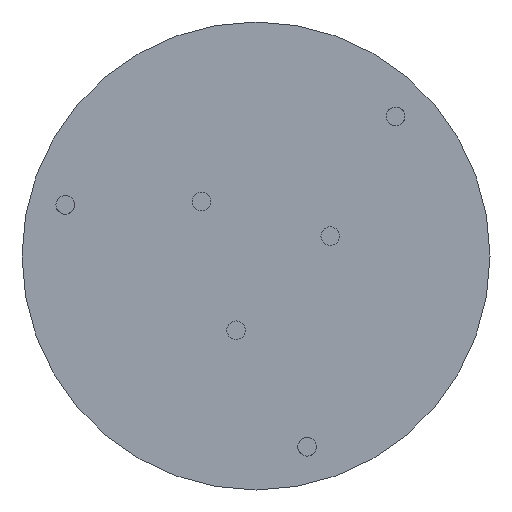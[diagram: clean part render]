
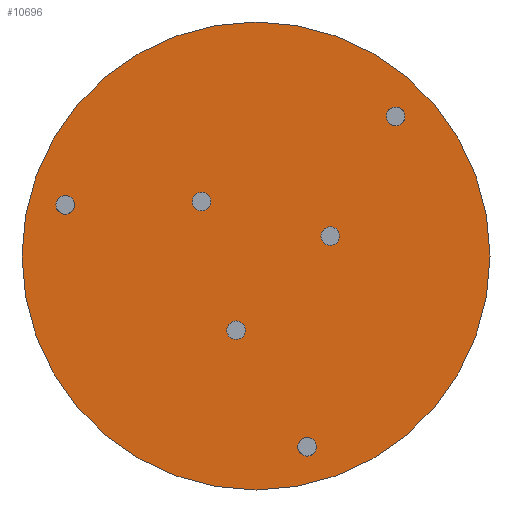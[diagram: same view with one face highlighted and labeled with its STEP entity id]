
A CAD part, front view. The second image highlights one B-rep face of the part: STEP entity #10696.
In plain terms, the highlighted planar face has unit normal (0, -1, 0).
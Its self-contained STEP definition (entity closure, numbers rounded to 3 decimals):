
#14 = EDGE_CURVE ( 'NONE', #13935, #9723, #3728, .T. ) ;
#124 = CIRCLE ( 'NONE', #11378, 1.025 ) ;
#409 = VERTEX_POINT ( 'NONE', #5105 ) ;
#534 = AXIS2_PLACEMENT_3D ( 'NONE', #18469, #21255, #14692 ) ;
#538 = CARTESIAN_POINT ( 'NONE',  ( -2.2, -16.167, -7.185 ) ) ;
#561 = CARTESIAN_POINT ( 'NONE',  ( -2.2, -16.167, -8.21 ) ) ;
#601 = DIRECTION ( 'NONE',  ( 0., 1., 0. ) ) ;
#626 = AXIS2_PLACEMENT_3D ( 'NONE', #5455, #15149, #8956 ) ;
#720 = ORIENTED_EDGE ( 'NONE', *, *, #12627, .T. ) ;
#805 = CARTESIAN_POINT ( 'NONE',  ( 15.44, -16.167, 15.44 ) ) ;
#852 = FACE_BOUND ( 'NONE', #11105, .T. ) ;
#1054 = EDGE_CURVE ( 'NONE', #10096, #409, #5345, .T. ) ;
#1251 = AXIS2_PLACEMENT_3D ( 'NONE', #21006, #11650, #20651 ) ;
#1368 = CIRCLE ( 'NONE', #21277, 25.87 ) ;
#1463 = CIRCLE ( 'NONE', #8812, 1.025 ) ;
#1487 = DIRECTION ( 'NONE',  ( 0., 0., 1. ) ) ;
#1886 = CIRCLE ( 'NONE', #15677, 25.87 ) ;
#1982 = CARTESIAN_POINT ( 'NONE',  ( 15.44, -16.167, 14.415 ) ) ;
#2028 = EDGE_CURVE ( 'NONE', #19345, #5427, #7998, .T. ) ;
#2061 = VERTEX_POINT ( 'NONE', #16695 ) ;
#2210 = AXIS2_PLACEMENT_3D ( 'NONE', #19307, #601, #15830 ) ;
#2347 = VERTEX_POINT ( 'NONE', #11616 ) ;
#2651 = DIRECTION ( 'NONE',  ( 0., 0., 1. ) ) ;
#2839 = DIRECTION ( 'NONE',  ( 0., 0., -1. ) ) ;
#2897 = DIRECTION ( 'NONE',  ( 0., 0., -1. ) ) ;
#2940 = PLANE ( 'NONE',  #15455 ) ;
#3058 = EDGE_CURVE ( 'NONE', #11315, #2347, #14504, .T. ) ;
#3181 = CARTESIAN_POINT ( 'NONE',  ( 8.21, -16.167, 1.175 ) ) ;
#3257 = EDGE_CURVE ( 'NONE', #2061, #5592, #21453, .T. ) ;
#3351 = DIRECTION ( 'NONE',  ( 0., 0., 1. ) ) ;
#3517 = CIRCLE ( 'NONE', #12570, 1.025 ) ;
#3615 = FACE_BOUND ( 'NONE', #7891, .T. ) ;
#3728 = CIRCLE ( 'NONE', #17282, 1.025 ) ;
#3746 = EDGE_CURVE ( 'NONE', #9723, #13935, #15369, .T. ) ;
#3860 = ORIENTED_EDGE ( 'NONE', *, *, #3746, .T. ) ;
#3978 = FACE_OUTER_BOUND ( 'NONE', #4172, .T. ) ;
#4087 = AXIS2_PLACEMENT_3D ( 'NONE', #17050, #13234, #4545 ) ;
#4172 = EDGE_LOOP ( 'NONE', ( #14338, #10145 ) ) ;
#4391 = CIRCLE ( 'NONE', #534, 1.025 ) ;
#4545 = DIRECTION ( 'NONE',  ( 0., 0., 1. ) ) ;
#4631 = DIRECTION ( 'NONE',  ( 0., -1., 0. ) ) ;
#5105 = CARTESIAN_POINT ( 'NONE',  ( -6.01, -16.167, 7.035 ) ) ;
#5188 = CARTESIAN_POINT ( 'NONE',  ( 15.44, -16.167, 16.465 ) ) ;
#5236 = ORIENTED_EDGE ( 'NONE', *, *, #14, .T. ) ;
#5345 = CIRCLE ( 'NONE', #16879, 1.025 ) ;
#5427 = VERTEX_POINT ( 'NONE', #3181 ) ;
#5443 = EDGE_CURVE ( 'NONE', #16211, #16383, #1886, .T. ) ;
#5455 = CARTESIAN_POINT ( 'NONE',  ( 15.44, -16.167, 15.44 ) ) ;
#5592 = VERTEX_POINT ( 'NONE', #538 ) ;
#5801 = DIRECTION ( 'NONE',  ( 0., 1., 0. ) ) ;
#6082 = CIRCLE ( 'NONE', #2210, 1.025 ) ;
#6347 = ORIENTED_EDGE ( 'NONE', *, *, #2028, .T. ) ;
#6796 = FACE_BOUND ( 'NONE', #13981, .T. ) ;
#7375 = ORIENTED_EDGE ( 'NONE', *, *, #1054, .T. ) ;
#7396 = EDGE_CURVE ( 'NONE', #5427, #19345, #16577, .T. ) ;
#7554 = CARTESIAN_POINT ( 'NONE',  ( -6.01, -16.167, 6.01 ) ) ;
#7595 = DIRECTION ( 'NONE',  ( 0., 1., 0. ) ) ;
#7891 = EDGE_LOOP ( 'NONE', ( #6347, #16689 ) ) ;
#7998 = CIRCLE ( 'NONE', #4087, 1.025 ) ;
#8475 = DIRECTION ( 'NONE',  ( 0., 1., 0. ) ) ;
#8483 = ORIENTED_EDGE ( 'NONE', *, *, #15787, .T. ) ;
#8557 = DIRECTION ( 'NONE',  ( 0., 0., 1. ) ) ;
#8755 = CARTESIAN_POINT ( 'NONE',  ( -21.091, -16.167, 6.676 ) ) ;
#8812 = AXIS2_PLACEMENT_3D ( 'NONE', #16501, #17885, #8557 ) ;
#8927 = AXIS2_PLACEMENT_3D ( 'NONE', #19433, #12182, #11828 ) ;
#8956 = DIRECTION ( 'NONE',  ( 0., 0., 1. ) ) ;
#9723 = VERTEX_POINT ( 'NONE', #1982 ) ;
#9982 = CARTESIAN_POINT ( 'NONE',  ( 5.651, -16.167, -22.116 ) ) ;
#10096 = VERTEX_POINT ( 'NONE', #20904 ) ;
#10145 = ORIENTED_EDGE ( 'NONE', *, *, #12412, .T. ) ;
#10239 = DIRECTION ( 'NONE',  ( 0., 0., -1. ) ) ;
#10696 = ADVANCED_FACE ( 'NONE', ( #852, #11947, #20633, #3615, #6796, #18191, #3978 ), #2940, .T. ) ;
#11018 = DIRECTION ( 'NONE',  ( 0., 0., 1. ) ) ;
#11105 = EDGE_LOOP ( 'NONE', ( #12839, #720 ) ) ;
#11218 = EDGE_LOOP ( 'NONE', ( #16371, #7375 ) ) ;
#11315 = VERTEX_POINT ( 'NONE', #9982 ) ;
#11378 = AXIS2_PLACEMENT_3D ( 'NONE', #16569, #7595, #19653 ) ;
#11616 = CARTESIAN_POINT ( 'NONE',  ( 5.651, -16.167, -20.066 ) ) ;
#11650 = DIRECTION ( 'NONE',  ( 0., 1., 0. ) ) ;
#11828 = DIRECTION ( 'NONE',  ( 0., 0., 1. ) ) ;
#11947 = FACE_BOUND ( 'NONE', #11218, .T. ) ;
#12182 = DIRECTION ( 'NONE',  ( 0., 1., 0. ) ) ;
#12201 = DIRECTION ( 'NONE',  ( 0., -1., 0. ) ) ;
#12412 = EDGE_CURVE ( 'NONE', #16383, #16211, #1368, .T. ) ;
#12570 = AXIS2_PLACEMENT_3D ( 'NONE', #14117, #5801, #3351 ) ;
#12627 = EDGE_CURVE ( 'NONE', #21443, #16069, #3517, .T. ) ;
#12839 = ORIENTED_EDGE ( 'NONE', *, *, #15137, .T. ) ;
#12981 = EDGE_CURVE ( 'NONE', #5592, #2061, #124, .T. ) ;
#13234 = DIRECTION ( 'NONE',  ( 0., 1., 0. ) ) ;
#13664 = CARTESIAN_POINT ( 'NONE',  ( 0., -16.167, 0. ) ) ;
#13935 = VERTEX_POINT ( 'NONE', #5188 ) ;
#13981 = EDGE_LOOP ( 'NONE', ( #8483, #18088 ) ) ;
#14105 = CARTESIAN_POINT ( 'NONE',  ( 8.21, -16.167, 3.225 ) ) ;
#14117 = CARTESIAN_POINT ( 'NONE',  ( -21.091, -16.167, 5.651 ) ) ;
#14312 = CARTESIAN_POINT ( 'NONE',  ( -21.091, -16.167, 4.626 ) ) ;
#14319 = ORIENTED_EDGE ( 'NONE', *, *, #3257, .T. ) ;
#14338 = ORIENTED_EDGE ( 'NONE', *, *, #5443, .T. ) ;
#14504 = CIRCLE ( 'NONE', #1251, 1.025 ) ;
#14692 = DIRECTION ( 'NONE',  ( 0., 0., 1. ) ) ;
#15137 = EDGE_CURVE ( 'NONE', #16069, #21443, #6082, .T. ) ;
#15149 = DIRECTION ( 'NONE',  ( 0., 1., 0. ) ) ;
#15365 = ORIENTED_EDGE ( 'NONE', *, *, #12981, .T. ) ;
#15369 = CIRCLE ( 'NONE', #626, 1.025 ) ;
#15455 = AXIS2_PLACEMENT_3D ( 'NONE', #18521, #16142, #10239 ) ;
#15677 = AXIS2_PLACEMENT_3D ( 'NONE', #20180, #12201, #2839 ) ;
#15787 = EDGE_CURVE ( 'NONE', #2347, #11315, #1463, .T. ) ;
#15830 = DIRECTION ( 'NONE',  ( 0., 0., 1. ) ) ;
#16069 = VERTEX_POINT ( 'NONE', #8755 ) ;
#16142 = DIRECTION ( 'NONE',  ( 0., -1., 0. ) ) ;
#16211 = VERTEX_POINT ( 'NONE', #20552 ) ;
#16371 = ORIENTED_EDGE ( 'NONE', *, *, #19562, .T. ) ;
#16383 = VERTEX_POINT ( 'NONE', #16464 ) ;
#16464 = CARTESIAN_POINT ( 'NONE',  ( 0., -16.167, -25.87 ) ) ;
#16501 = CARTESIAN_POINT ( 'NONE',  ( 5.651, -16.167, -21.091 ) ) ;
#16569 = CARTESIAN_POINT ( 'NONE',  ( -2.2, -16.167, -8.21 ) ) ;
#16577 = CIRCLE ( 'NONE', #8927, 1.025 ) ;
#16689 = ORIENTED_EDGE ( 'NONE', *, *, #7396, .T. ) ;
#16695 = CARTESIAN_POINT ( 'NONE',  ( -2.2, -16.167, -9.235 ) ) ;
#16879 = AXIS2_PLACEMENT_3D ( 'NONE', #7554, #18578, #2651 ) ;
#17050 = CARTESIAN_POINT ( 'NONE',  ( 8.21, -16.167, 2.2 ) ) ;
#17282 = AXIS2_PLACEMENT_3D ( 'NONE', #805, #8475, #1487 ) ;
#17885 = DIRECTION ( 'NONE',  ( 0., 1., 0. ) ) ;
#18088 = ORIENTED_EDGE ( 'NONE', *, *, #3058, .T. ) ;
#18191 = FACE_BOUND ( 'NONE', #18576, .T. ) ;
#18231 = DIRECTION ( 'NONE',  ( 0., 1., 0. ) ) ;
#18469 = CARTESIAN_POINT ( 'NONE',  ( -6.01, -16.167, 6.01 ) ) ;
#18521 = CARTESIAN_POINT ( 'NONE',  ( 0., -16.167, 0. ) ) ;
#18576 = EDGE_LOOP ( 'NONE', ( #15365, #14319 ) ) ;
#18578 = DIRECTION ( 'NONE',  ( 0., 1., 0. ) ) ;
#19025 = EDGE_LOOP ( 'NONE', ( #5236, #3860 ) ) ;
#19307 = CARTESIAN_POINT ( 'NONE',  ( -21.091, -16.167, 5.651 ) ) ;
#19345 = VERTEX_POINT ( 'NONE', #14105 ) ;
#19433 = CARTESIAN_POINT ( 'NONE',  ( 8.21, -16.167, 2.2 ) ) ;
#19562 = EDGE_CURVE ( 'NONE', #409, #10096, #4391, .T. ) ;
#19653 = DIRECTION ( 'NONE',  ( 0., 0., 1. ) ) ;
#20180 = CARTESIAN_POINT ( 'NONE',  ( 0., -16.167, 0. ) ) ;
#20435 = AXIS2_PLACEMENT_3D ( 'NONE', #561, #18231, #11018 ) ;
#20552 = CARTESIAN_POINT ( 'NONE',  ( 0., -16.167, 25.87 ) ) ;
#20633 = FACE_BOUND ( 'NONE', #19025, .T. ) ;
#20651 = DIRECTION ( 'NONE',  ( 0., 0., 1. ) ) ;
#20904 = CARTESIAN_POINT ( 'NONE',  ( -6.01, -16.167, 4.985 ) ) ;
#21006 = CARTESIAN_POINT ( 'NONE',  ( 5.651, -16.167, -21.091 ) ) ;
#21255 = DIRECTION ( 'NONE',  ( 0., 1., 0. ) ) ;
#21277 = AXIS2_PLACEMENT_3D ( 'NONE', #13664, #4631, #2897 ) ;
#21443 = VERTEX_POINT ( 'NONE', #14312 ) ;
#21453 = CIRCLE ( 'NONE', #20435, 1.025 ) ;
